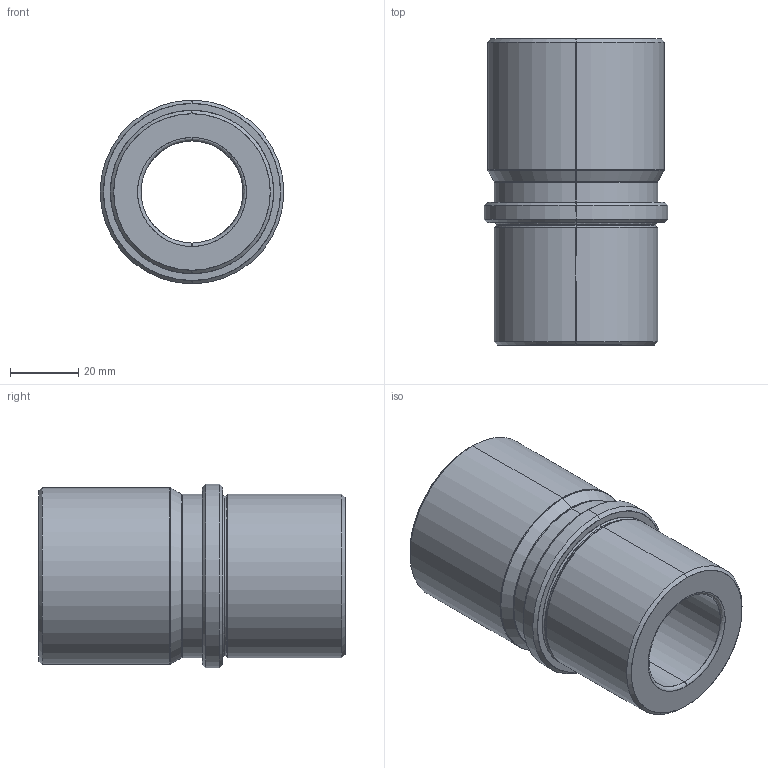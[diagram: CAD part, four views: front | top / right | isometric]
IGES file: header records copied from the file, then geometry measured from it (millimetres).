
Start section: SolidWorks IGES file using analytic representation for surfaces
Global section: file name: C:\Documents and Settings\kalite-mail\Desktop\IGS\D32\D32_30X36.IGS; native system: SolidWorks 2008; preprocessor: SolidWorks 2008; author: kalite-mail; date: 080707.171143; units: millimetre
Bounding box: 54 x 90 x 54 mm (x, y, z)
Surface area: 25849.6 mm2 (no closed solid volume)
Topology: 0 solids, 0 shells, 38 faces, 648 edges, 648 vertices
Faces by surface type: revolution 22, bspline 16
